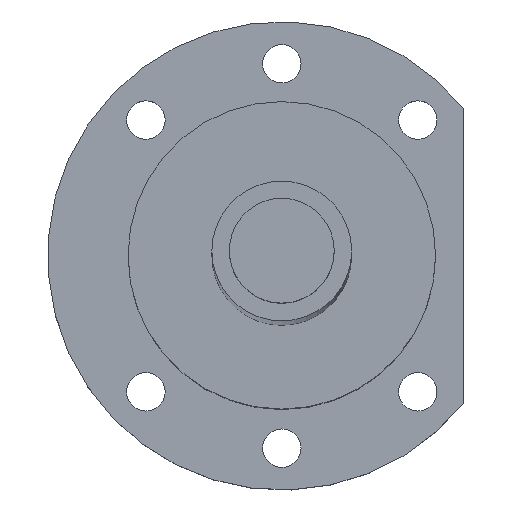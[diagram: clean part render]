
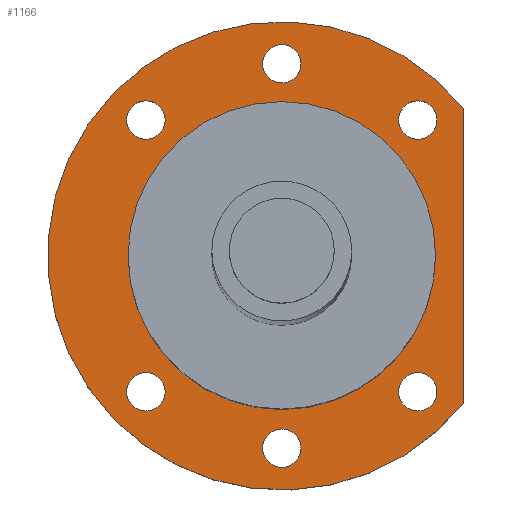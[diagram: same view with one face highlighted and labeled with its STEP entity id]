
A CAD part, top view. The second image highlights one B-rep face of the part: STEP entity #1166.
In plain terms, the highlighted planar face has unit normal (0, 0, 1).
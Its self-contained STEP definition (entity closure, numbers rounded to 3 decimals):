
#162=CARTESIAN_POINT('',(19.445,19.445,456.5));
#163=DIRECTION('',(0.,0.,-1.));
#164=DIRECTION('',(1.,0.,0.));
#165=AXIS2_PLACEMENT_3D('',#162,#163,#164);
#167=CARTESIAN_POINT('',(19.445,19.445,456.5));
#168=DIRECTION('',(0.,0.,-1.));
#169=DIRECTION('',(-1.,0.,0.));
#170=AXIS2_PLACEMENT_3D('',#167,#168,#169);
#172=CARTESIAN_POINT('',(0.,27.5,456.5));
#173=DIRECTION('',(0.,0.,-1.));
#174=DIRECTION('',(1.,0.,0.));
#175=AXIS2_PLACEMENT_3D('',#172,#173,#174);
#177=CARTESIAN_POINT('',(0.,27.5,456.5));
#178=DIRECTION('',(0.,0.,-1.));
#179=DIRECTION('',(-1.,0.,0.));
#180=AXIS2_PLACEMENT_3D('',#177,#178,#179);
#182=CARTESIAN_POINT('',(-19.445,19.445,456.5));
#183=DIRECTION('',(0.,0.,-1.));
#184=DIRECTION('',(1.,0.,0.));
#185=AXIS2_PLACEMENT_3D('',#182,#183,#184);
#187=CARTESIAN_POINT('',(-19.445,19.445,456.5));
#188=DIRECTION('',(0.,0.,-1.));
#189=DIRECTION('',(-1.,0.,0.));
#190=AXIS2_PLACEMENT_3D('',#187,#188,#189);
#192=CARTESIAN_POINT('',(-19.445,-19.445,456.5));
#193=DIRECTION('',(0.,0.,-1.));
#194=DIRECTION('',(1.,0.,0.));
#195=AXIS2_PLACEMENT_3D('',#192,#193,#194);
#197=CARTESIAN_POINT('',(-19.445,-19.445,456.5));
#198=DIRECTION('',(0.,0.,-1.));
#199=DIRECTION('',(-1.,0.,0.));
#200=AXIS2_PLACEMENT_3D('',#197,#198,#199);
#202=CARTESIAN_POINT('',(0.,-27.5,456.5));
#203=DIRECTION('',(0.,0.,-1.));
#204=DIRECTION('',(1.,0.,0.));
#205=AXIS2_PLACEMENT_3D('',#202,#203,#204);
#207=CARTESIAN_POINT('',(0.,-27.5,456.5));
#208=DIRECTION('',(0.,0.,-1.));
#209=DIRECTION('',(-1.,0.,0.));
#210=AXIS2_PLACEMENT_3D('',#207,#208,#209);
#212=CARTESIAN_POINT('',(19.445,-19.445,456.5));
#213=DIRECTION('',(0.,0.,-1.));
#214=DIRECTION('',(1.,0.,0.));
#215=AXIS2_PLACEMENT_3D('',#212,#213,#214);
#217=CARTESIAN_POINT('',(19.445,-19.445,456.5));
#218=DIRECTION('',(0.,0.,-1.));
#219=DIRECTION('',(-1.,0.,0.));
#220=AXIS2_PLACEMENT_3D('',#217,#218,#219);
#222=CARTESIAN_POINT('',(0.,0.,456.5));
#223=DIRECTION('',(0.,0.,1.));
#224=DIRECTION('',(0.776,0.631,0.));
#225=AXIS2_PLACEMENT_3D('',#222,#223,#224);
#227=DIRECTION('',(0.,1.,0.));
#228=VECTOR('',#227,42.249);
#229=CARTESIAN_POINT('',(26.,-21.125,456.5));
#230=LINE('',#229,#228);
#231=CARTESIAN_POINT('',(0.,0.,456.5));
#232=DIRECTION('',(0.,0.,1.));
#233=DIRECTION('',(0.,-1.,0.));
#234=AXIS2_PLACEMENT_3D('',#231,#232,#233);
#236=CARTESIAN_POINT('',(0.,0.,456.5));
#237=DIRECTION('',(0.,0.,1.));
#238=DIRECTION('',(0.,1.,0.));
#239=AXIS2_PLACEMENT_3D('',#236,#237,#238);
#751=CARTESIAN_POINT('',(22.195,19.445,456.5));
#752=CARTESIAN_POINT('',(16.695,19.445,456.5));
#753=VERTEX_POINT('',#751);
#754=VERTEX_POINT('',#752);
#755=CARTESIAN_POINT('',(2.75,27.5,456.5));
#756=CARTESIAN_POINT('',(-2.75,27.5,456.5));
#757=VERTEX_POINT('',#755);
#758=VERTEX_POINT('',#756);
#759=CARTESIAN_POINT('',(-16.695,19.445,456.5));
#760=CARTESIAN_POINT('',(-22.195,19.445,456.5));
#761=VERTEX_POINT('',#759);
#762=VERTEX_POINT('',#760);
#763=CARTESIAN_POINT('',(-16.695,-19.445,456.5));
#764=CARTESIAN_POINT('',(-22.195,-19.445,456.5));
#765=VERTEX_POINT('',#763);
#766=VERTEX_POINT('',#764);
#767=CARTESIAN_POINT('',(2.75,-27.5,456.5));
#768=CARTESIAN_POINT('',(-2.75,-27.5,456.5));
#769=VERTEX_POINT('',#767);
#770=VERTEX_POINT('',#768);
#771=CARTESIAN_POINT('',(22.195,-19.445,456.5));
#772=CARTESIAN_POINT('',(16.695,-19.445,456.5));
#773=VERTEX_POINT('',#771);
#774=VERTEX_POINT('',#772);
#775=CARTESIAN_POINT('',(26.,21.125,456.5));
#776=CARTESIAN_POINT('',(26.,-21.125,456.5));
#777=VERTEX_POINT('',#775);
#778=VERTEX_POINT('',#776);
#859=CARTESIAN_POINT('',(0.,-22.,456.5));
#860=CARTESIAN_POINT('',(0.,22.,456.5));
#861=VERTEX_POINT('',#859);
#862=VERTEX_POINT('',#860);
#1115=CARTESIAN_POINT('',(0.,0.,456.5));
#1116=DIRECTION('',(0.,0.,1.));
#1117=DIRECTION('',(1.,0.,0.));
#1118=AXIS2_PLACEMENT_3D('',#1115,#1116,#1117);
#1119=PLANE('',#1118);
#1120=ORIENTED_EDGE('',*,*,#1095,.F.);
#1121=ORIENTED_EDGE('',*,*,#1109,.F.);
#1122=EDGE_LOOP('',(#1120,#1121));
#1123=FACE_OUTER_BOUND('',#1122,.F.);
#1125=ORIENTED_EDGE('',*,*,#1124,.F.);
#1127=ORIENTED_EDGE('',*,*,#1126,.F.);
#1128=EDGE_LOOP('',(#1125,#1127));
#1129=FACE_BOUND('',#1128,.F.);
#1131=ORIENTED_EDGE('',*,*,#1130,.F.);
#1133=ORIENTED_EDGE('',*,*,#1132,.F.);
#1134=EDGE_LOOP('',(#1131,#1133));
#1135=FACE_BOUND('',#1134,.F.);
#1137=ORIENTED_EDGE('',*,*,#1136,.F.);
#1139=ORIENTED_EDGE('',*,*,#1138,.F.);
#1140=EDGE_LOOP('',(#1137,#1139));
#1141=FACE_BOUND('',#1140,.F.);
#1143=ORIENTED_EDGE('',*,*,#1142,.F.);
#1145=ORIENTED_EDGE('',*,*,#1144,.F.);
#1146=EDGE_LOOP('',(#1143,#1145));
#1147=FACE_BOUND('',#1146,.F.);
#1149=ORIENTED_EDGE('',*,*,#1148,.F.);
#1151=ORIENTED_EDGE('',*,*,#1150,.F.);
#1152=EDGE_LOOP('',(#1149,#1151));
#1153=FACE_BOUND('',#1152,.F.);
#1155=ORIENTED_EDGE('',*,*,#1154,.F.);
#1157=ORIENTED_EDGE('',*,*,#1156,.F.);
#1158=EDGE_LOOP('',(#1155,#1157));
#1159=FACE_BOUND('',#1158,.F.);
#1161=ORIENTED_EDGE('',*,*,#1160,.T.);
#1163=ORIENTED_EDGE('',*,*,#1162,.T.);
#1164=EDGE_LOOP('',(#1161,#1163));
#1165=FACE_BOUND('',#1164,.F.);
#1166=ADVANCED_FACE('',(#1123,#1129,#1135,#1141,#1147,#1153,#1159,#1165),#1119,
.T.);
#166=CIRCLE('',#165,2.75);
#171=CIRCLE('',#170,2.75);
#176=CIRCLE('',#175,2.75);
#181=CIRCLE('',#180,2.75);
#186=CIRCLE('',#185,2.75);
#191=CIRCLE('',#190,2.75);
#196=CIRCLE('',#195,2.75);
#201=CIRCLE('',#200,2.75);
#206=CIRCLE('',#205,2.75);
#211=CIRCLE('',#210,2.75);
#216=CIRCLE('',#215,2.75);
#221=CIRCLE('',#220,2.75);
#226=CIRCLE('',#225,33.5);
#235=CIRCLE('',#234,22.);
#240=CIRCLE('',#239,22.);
#1095=EDGE_CURVE('',#777,#778,#226,.T.);
#1109=EDGE_CURVE('',#778,#777,#230,.T.);
#1124=EDGE_CURVE('',#753,#754,#166,.T.);
#1126=EDGE_CURVE('',#754,#753,#171,.T.);
#1130=EDGE_CURVE('',#757,#758,#176,.T.);
#1132=EDGE_CURVE('',#758,#757,#181,.T.);
#1136=EDGE_CURVE('',#761,#762,#186,.T.);
#1138=EDGE_CURVE('',#762,#761,#191,.T.);
#1142=EDGE_CURVE('',#765,#766,#196,.T.);
#1144=EDGE_CURVE('',#766,#765,#201,.T.);
#1148=EDGE_CURVE('',#769,#770,#206,.T.);
#1150=EDGE_CURVE('',#770,#769,#211,.T.);
#1154=EDGE_CURVE('',#773,#774,#216,.T.);
#1156=EDGE_CURVE('',#774,#773,#221,.T.);
#1160=EDGE_CURVE('',#861,#862,#235,.T.);
#1162=EDGE_CURVE('',#862,#861,#240,.T.);
